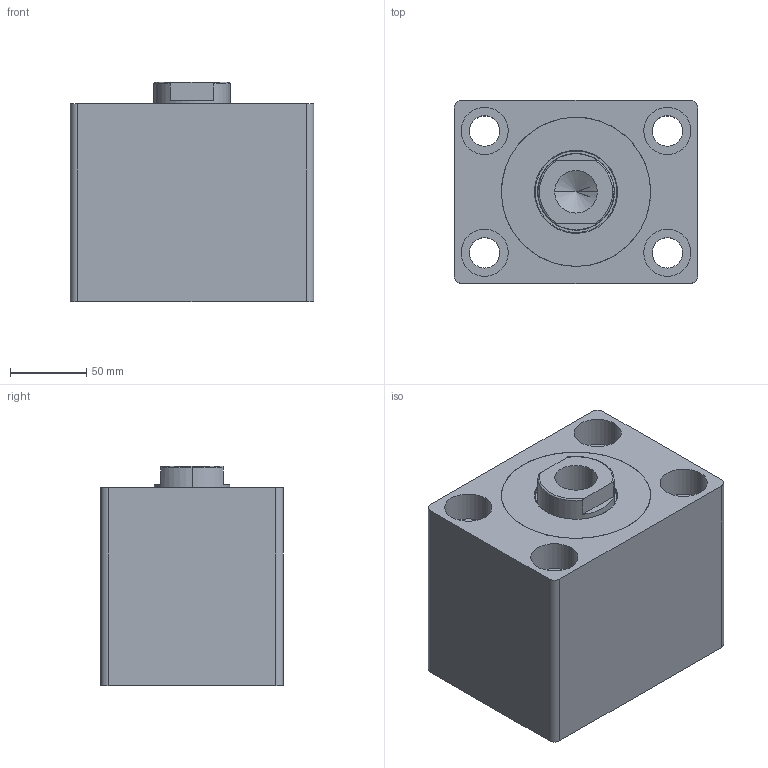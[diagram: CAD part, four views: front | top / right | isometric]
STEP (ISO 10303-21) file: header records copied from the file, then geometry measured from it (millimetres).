
FILE_DESCRIPTION (( 'STEP AP214' ), '1' );
FILE_NAME ('KBZ_02b_80_50_45.STEP', '2023-05-19T20:01:33', ( '' ), ( '' ), 'SwSTEP 2.0', 'SolidWorks 2021', '' );
FILE_SCHEMA (( 'AUTOMOTIVE_DESIGN' ));
Length unit declared in the file: millimetre
Products named in the file (4): KBZ_50_K_MIL_WEB; KBZ_80_GOVDE_WEB; KBZ_80_ON_KAPAK; KBZ_02b_80_50_45
Assembly tree (3 placements, depth 2):
  KBZ_02b_80_50_45
    KBZ_80_GOVDE_WEB
    KBZ_80_ON_KAPAK
    KBZ_50_K_MIL_WEB
Bounding box: 160 x 120 x 144 mm (x, y, z)
Volume: 2007435.2 mm3; surface area: 237044.9 mm2
Topology: 3 solids, 3 shells, 488 faces, 1217 edges, 796 vertices
Faces by surface type: plane 205, bspline 164, cylinder 80, cone 36, torus 3
Entity records: 24097 total; most frequent: CARTESIAN_POINT 13113, ORIENTED_EDGE 2430, DIRECTION 1737, EDGE_CURVE 1215, VERTEX_POINT 796, VECTOR 685, LINE 685, EDGE_LOOP 563
